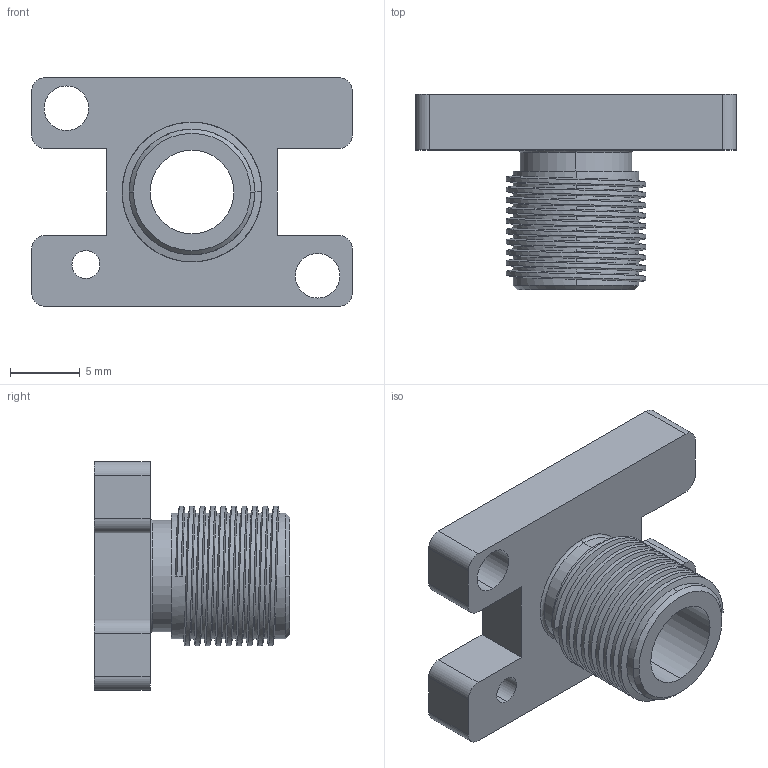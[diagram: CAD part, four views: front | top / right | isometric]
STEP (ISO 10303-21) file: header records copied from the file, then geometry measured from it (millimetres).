
FILE_DESCRIPTION (( 'STEP AP214' ), '1' );
FILE_NAME ('SMBM-10.STEP', '2019-11-06T08:03:06', ( '微软用户' ), ( '微软中国' ), 'SwSTEP 2.0', 'SolidWorks 2016', '' );
FILE_SCHEMA (( 'AUTOMOTIVE_DESIGN' ));
Length unit declared in the file: millimetre
Products named in the file (1): SMBM-10
Bounding box: 23 x 14 x 16.4 mm (x, y, z)
Volume: 1432.9 mm3; surface area: 1821.6 mm2
Topology: 1 solids, 1 shells, 63 faces, 175 edges, 116 vertices
Faces by surface type: cylinder 38, plane 18, bspline 5, cone 2
Entity records: 3474 total; most frequent: CARTESIAN_POINT 1920, ORIENTED_EDGE 350, DIRECTION 291, EDGE_CURVE 175, VERTEX_POINT 116, AXIS2_PLACEMENT_3D 103, VECTOR 85, LINE 85
